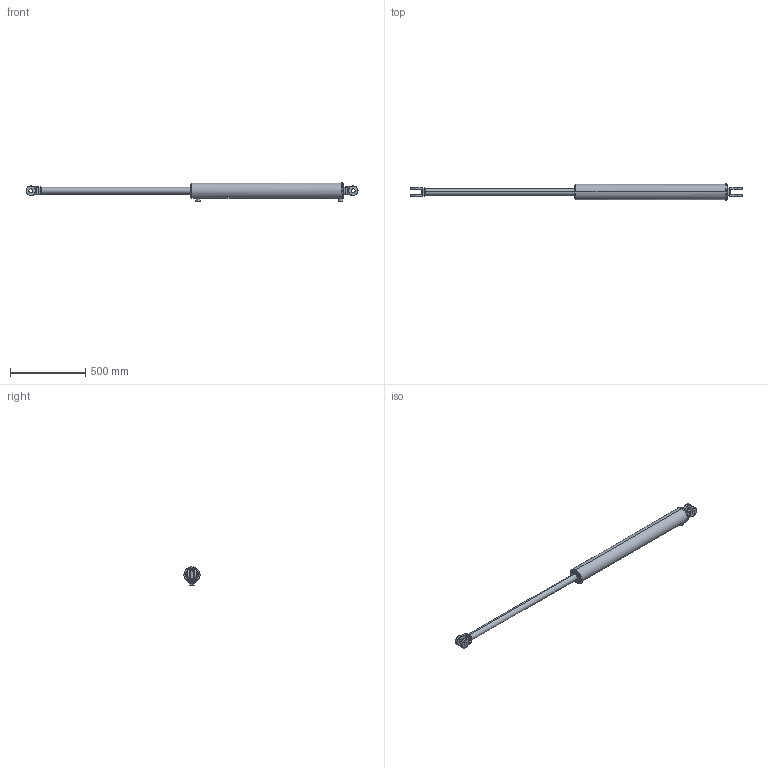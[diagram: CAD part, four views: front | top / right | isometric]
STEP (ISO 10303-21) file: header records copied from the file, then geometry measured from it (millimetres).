
FILE_DESCRIPTION (( 'STEP AP203' ), '1' );
FILE_NAME ('CL-CL350175x914 (36) extended.STEP', '2014-11-22T16:59:42', ( '' ), ( '' ), 'SwSTEP 2.0', 'SolidWorks 2014', '' );
FILE_SCHEMA (( 'CONFIG_CONTROL_DESIGN' ));
Length unit declared in the file: millimetre
Products named in the file (4): CL-CL300150x  body_3.5x36; 3 in ext circlip; SPARE 6_36x1.75; CL-CL350175x914 (36) extended
Assembly tree (3 placements, depth 2):
  CL-CL350175x914 (36) extended
    CL-CL300150x  body_3.5x36
    3 in ext circlip
    SPARE 6_36x1.75
Bounding box: 2202.39 x 107.29 x 124.48 mm (x, y, z)
Volume: 9072051.3 mm3; surface area: 648589.6 mm2
Topology: 3 solids, 3 shells, 211 faces, 518 edges, 319 vertices
Faces by surface type: cylinder 91, bspline 59, plane 38, torus 15, cone 8
Entity records: 11321 total; most frequent: CARTESIAN_POINT 6234, ORIENTED_EDGE 1028, DIRECTION 941, EDGE_CURVE 514, AXIS2_PLACEMENT_3D 393, VERTEX_POINT 319, CIRCLE 235, EDGE_LOOP 233
